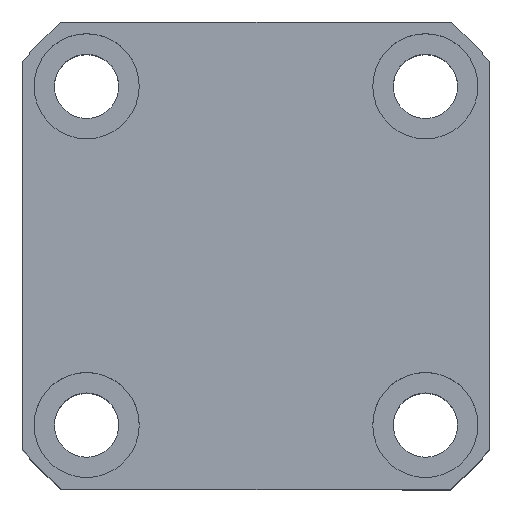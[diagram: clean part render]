
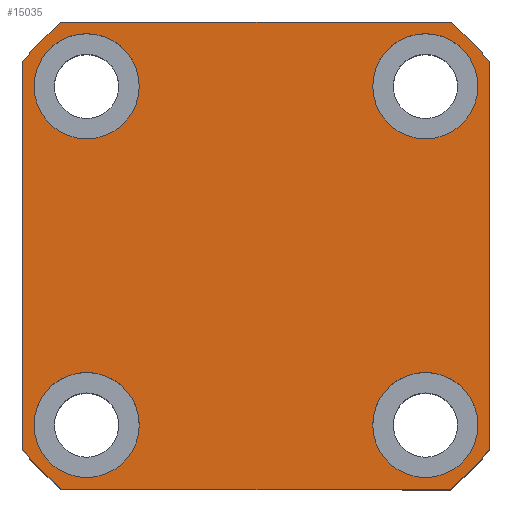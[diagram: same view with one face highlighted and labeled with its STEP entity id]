
A CAD part, top view. The second image highlights one B-rep face of the part: STEP entity #15035.
In plain terms, the highlighted planar face has unit normal (0, 0, 1).
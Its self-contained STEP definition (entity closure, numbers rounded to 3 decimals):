
#57 = EDGE_CURVE ( 'NONE', #1754, #4239, #4916, .T. ) ;
#171 = CIRCLE ( 'NONE', #12925, 52. ) ;
#187 = CIRCLE ( 'NONE', #13452, 9. ) ;
#350 = DIRECTION ( 'NONE',  ( 1., 0., 0. ) ) ;
#549 = EDGE_CURVE ( 'NONE', #1528, #14210, #15023, .T. ) ;
#766 = EDGE_CURVE ( 'NONE', #3929, #16914, #11044, .T. ) ;
#815 = FACE_BOUND ( 'NONE', #13070, .T. ) ;
#1059 = CARTESIAN_POINT ( 'NONE',  ( 29., 29., 37.5 ) ) ;
#1154 = ORIENTED_EDGE ( 'NONE', *, *, #9533, .F. ) ;
#1237 = DIRECTION ( 'NONE',  ( 1., 0., 0. ) ) ;
#1260 = CARTESIAN_POINT ( 'NONE',  ( 38., -29., 37.5 ) ) ;
#1262 = EDGE_CURVE ( 'NONE', #13022, #3929, #9930, .T. ) ;
#1265 = FACE_BOUND ( 'NONE', #1432, .T. ) ;
#1422 = VECTOR ( 'NONE', #2380, 1000. ) ;
#1432 = EDGE_LOOP ( 'NONE', ( #7398, #15890 ) ) ;
#1440 = CARTESIAN_POINT ( 'NONE',  ( 40., -33.226, 37.5 ) ) ;
#1528 = VERTEX_POINT ( 'NONE', #1260 ) ;
#1754 = VERTEX_POINT ( 'NONE', #1440 ) ;
#1807 = ORIENTED_EDGE ( 'NONE', *, *, #766, .T. ) ;
#2009 = CIRCLE ( 'NONE', #16118, 9. ) ;
#2079 = EDGE_CURVE ( 'NONE', #11434, #8548, #8201, .T. ) ;
#2185 = EDGE_CURVE ( 'NONE', #14210, #1528, #12819, .T. ) ;
#2206 = CIRCLE ( 'NONE', #8708, 9. ) ;
#2213 = EDGE_CURVE ( 'NONE', #16914, #8393, #11690, .T. ) ;
#2372 = EDGE_LOOP ( 'NONE', ( #4890, #2539 ) ) ;
#2380 = DIRECTION ( 'NONE',  ( 0., 1., 0. ) ) ;
#2539 = ORIENTED_EDGE ( 'NONE', *, *, #10391, .F. ) ;
#2752 = CARTESIAN_POINT ( 'NONE',  ( -40., -33.226, 37.5 ) ) ;
#3026 = EDGE_CURVE ( 'NONE', #6602, #11317, #10017, .T. ) ;
#3046 = FACE_OUTER_BOUND ( 'NONE', #10121, .T. ) ;
#3053 = PLANE ( 'NONE',  #12131 ) ;
#3156 = CARTESIAN_POINT ( 'NONE',  ( 20., 29., 37.5 ) ) ;
#3438 = CARTESIAN_POINT ( 'NONE',  ( -40., 33.226, 37.5 ) ) ;
#3487 = CIRCLE ( 'NONE', #16148, 52. ) ;
#3510 = EDGE_CURVE ( 'NONE', #8393, #1754, #3487, .T. ) ;
#3611 = EDGE_CURVE ( 'NONE', #4497, #13119, #187, .T. ) ;
#3819 = DIRECTION ( 'NONE',  ( 1., 0., 0. ) ) ;
#3839 = DIRECTION ( 'NONE',  ( 1., 0., 0. ) ) ;
#3929 = VERTEX_POINT ( 'NONE', #2752 ) ;
#4239 = VERTEX_POINT ( 'NONE', #14140 ) ;
#4298 = AXIS2_PLACEMENT_3D ( 'NONE', #12173, #17667, #13657 ) ;
#4497 = VERTEX_POINT ( 'NONE', #16981 ) ;
#4796 = CARTESIAN_POINT ( 'NONE',  ( -29., -29., 37.5 ) ) ;
#4890 = ORIENTED_EDGE ( 'NONE', *, *, #2079, .F. ) ;
#4916 = LINE ( 'NONE', #16629, #1422 ) ;
#5325 = CARTESIAN_POINT ( 'NONE',  ( -29., 29., 37.5 ) ) ;
#5450 = DIRECTION ( 'NONE',  ( 0., 0., 1. ) ) ;
#5802 = CARTESIAN_POINT ( 'NONE',  ( -40., 33.226, 37.5 ) ) ;
#5832 = DIRECTION ( 'NONE',  ( 0., 0., 1. ) ) ;
#5884 = CARTESIAN_POINT ( 'NONE',  ( -33.226, 40., 37.5 ) ) ;
#6233 = VECTOR ( 'NONE', #14582, 1000. ) ;
#6314 = FACE_BOUND ( 'NONE', #2372, .T. ) ;
#6415 = EDGE_CURVE ( 'NONE', #4239, #6602, #171, .T. ) ;
#6602 = VERTEX_POINT ( 'NONE', #15194 ) ;
#6940 = DIRECTION ( 'NONE',  ( 0., 0., 1. ) ) ;
#6966 = CARTESIAN_POINT ( 'NONE',  ( -38., 29., 37.5 ) ) ;
#7135 = ORIENTED_EDGE ( 'NONE', *, *, #57, .T. ) ;
#7156 = CARTESIAN_POINT ( 'NONE',  ( -38., -29., 37.5 ) ) ;
#7307 = DIRECTION ( 'NONE',  ( -1., 0., 0. ) ) ;
#7327 = DIRECTION ( 'NONE',  ( 0., 0., 1. ) ) ;
#7398 = ORIENTED_EDGE ( 'NONE', *, *, #3611, .F. ) ;
#7524 = CARTESIAN_POINT ( 'NONE',  ( -20., -29., 37.5 ) ) ;
#7540 = CARTESIAN_POINT ( 'NONE',  ( 20., -29., 37.5 ) ) ;
#7685 = EDGE_LOOP ( 'NONE', ( #1154, #16789 ) ) ;
#7976 = CARTESIAN_POINT ( 'NONE',  ( 0., 0., 37.5 ) ) ;
#8024 = AXIS2_PLACEMENT_3D ( 'NONE', #11498, #12765, #11256 ) ;
#8072 = CARTESIAN_POINT ( 'NONE',  ( -29., -29., 37.5 ) ) ;
#8201 = CIRCLE ( 'NONE', #10954, 9. ) ;
#8215 = DIRECTION ( 'NONE',  ( 1., 0., 0. ) ) ;
#8393 = VERTEX_POINT ( 'NONE', #16040 ) ;
#8467 = CARTESIAN_POINT ( 'NONE',  ( -29., 29., 37.5 ) ) ;
#8540 = CARTESIAN_POINT ( 'NONE',  ( 0., 0., 37.5 ) ) ;
#8548 = VERTEX_POINT ( 'NONE', #3156 ) ;
#8708 = AXIS2_PLACEMENT_3D ( 'NONE', #4796, #15884, #11655 ) ;
#8854 = AXIS2_PLACEMENT_3D ( 'NONE', #11149, #6940, #1237 ) ;
#9212 = EDGE_CURVE ( 'NONE', #13119, #4497, #14055, .T. ) ;
#9252 = ORIENTED_EDGE ( 'NONE', *, *, #549, .F. ) ;
#9533 = EDGE_CURVE ( 'NONE', #16398, #12651, #2206, .T. ) ;
#9828 = ORIENTED_EDGE ( 'NONE', *, *, #3510, .T. ) ;
#9919 = ORIENTED_EDGE ( 'NONE', *, *, #14661, .T. ) ;
#9930 = LINE ( 'NONE', #5802, #6233 ) ;
#9940 = VECTOR ( 'NONE', #12467, 1000. ) ;
#10017 = LINE ( 'NONE', #5884, #16408 ) ;
#10059 = CARTESIAN_POINT ( 'NONE',  ( 38., 29., 37.5 ) ) ;
#10121 = EDGE_LOOP ( 'NONE', ( #9919, #13717, #1807, #11729, #9828, #7135, #12316, #15933 ) ) ;
#10128 = AXIS2_PLACEMENT_3D ( 'NONE', #13373, #10699, #17754 ) ;
#10391 = EDGE_CURVE ( 'NONE', #8548, #11434, #13729, .T. ) ;
#10699 = DIRECTION ( 'NONE',  ( 0., 0., 1. ) ) ;
#10740 = CARTESIAN_POINT ( 'NONE',  ( -33.226, 40., 37.5 ) ) ;
#10837 = DIRECTION ( 'NONE',  ( 1., 0., 0. ) ) ;
#10895 = FACE_BOUND ( 'NONE', #7685, .T. ) ;
#10954 = AXIS2_PLACEMENT_3D ( 'NONE', #1059, #17951, #10837 ) ;
#10986 = DIRECTION ( 'NONE',  ( 0., 0., 1. ) ) ;
#11044 = CIRCLE ( 'NONE', #10128, 52. ) ;
#11149 = CARTESIAN_POINT ( 'NONE',  ( 29., -29., 37.5 ) ) ;
#11256 = DIRECTION ( 'NONE',  ( 1., 0., 0. ) ) ;
#11317 = VERTEX_POINT ( 'NONE', #10740 ) ;
#11325 = EDGE_CURVE ( 'NONE', #12651, #16398, #2009, .T. ) ;
#11434 = VERTEX_POINT ( 'NONE', #10059 ) ;
#11498 = CARTESIAN_POINT ( 'NONE',  ( 29., -29., 37.5 ) ) ;
#11541 = CARTESIAN_POINT ( 'NONE',  ( -33.226, -40., 37.5 ) ) ;
#11655 = DIRECTION ( 'NONE',  ( 1., 0., 0. ) ) ;
#11690 = LINE ( 'NONE', #16684, #9940 ) ;
#11729 = ORIENTED_EDGE ( 'NONE', *, *, #2213, .T. ) ;
#12092 = CARTESIAN_POINT ( 'NONE',  ( 0., 0., 37.5 ) ) ;
#12131 = AXIS2_PLACEMENT_3D ( 'NONE', #8540, #7327, #350 ) ;
#12173 = CARTESIAN_POINT ( 'NONE',  ( 0., 0., 37.5 ) ) ;
#12316 = ORIENTED_EDGE ( 'NONE', *, *, #6415, .T. ) ;
#12467 = DIRECTION ( 'NONE',  ( 1., 0., 0. ) ) ;
#12608 = DIRECTION ( 'NONE',  ( 1., 0., 0. ) ) ;
#12609 = AXIS2_PLACEMENT_3D ( 'NONE', #8467, #12734, #18079 ) ;
#12651 = VERTEX_POINT ( 'NONE', #7156 ) ;
#12734 = DIRECTION ( 'NONE',  ( 0., 0., 1. ) ) ;
#12765 = DIRECTION ( 'NONE',  ( 0., 0., 1. ) ) ;
#12819 = CIRCLE ( 'NONE', #8854, 9. ) ;
#12925 = AXIS2_PLACEMENT_3D ( 'NONE', #12092, #15110, #3839 ) ;
#13022 = VERTEX_POINT ( 'NONE', #3438 ) ;
#13070 = EDGE_LOOP ( 'NONE', ( #9252, #16287 ) ) ;
#13119 = VERTEX_POINT ( 'NONE', #6966 ) ;
#13373 = CARTESIAN_POINT ( 'NONE',  ( 0., 0., 37.5 ) ) ;
#13452 = AXIS2_PLACEMENT_3D ( 'NONE', #5325, #5450, #8215 ) ;
#13657 = DIRECTION ( 'NONE',  ( 1., 0., 0. ) ) ;
#13717 = ORIENTED_EDGE ( 'NONE', *, *, #1262, .T. ) ;
#13729 = CIRCLE ( 'NONE', #17175, 9. ) ;
#14008 = CARTESIAN_POINT ( 'NONE',  ( 29., 29., 37.5 ) ) ;
#14055 = CIRCLE ( 'NONE', #12609, 9. ) ;
#14140 = CARTESIAN_POINT ( 'NONE',  ( 40., 33.226, 37.5 ) ) ;
#14210 = VERTEX_POINT ( 'NONE', #7540 ) ;
#14582 = DIRECTION ( 'NONE',  ( 0., -1., 0. ) ) ;
#14661 = EDGE_CURVE ( 'NONE', #11317, #13022, #17273, .T. ) ;
#15023 = CIRCLE ( 'NONE', #8024, 9. ) ;
#15035 = ADVANCED_FACE ( 'NONE', ( #815, #10895, #1265, #6314, #3046 ), #3053, .T. ) ;
#15110 = DIRECTION ( 'NONE',  ( 0., 0., 1. ) ) ;
#15194 = CARTESIAN_POINT ( 'NONE',  ( 33.226, 40., 37.5 ) ) ;
#15884 = DIRECTION ( 'NONE',  ( 0., 0., 1. ) ) ;
#15890 = ORIENTED_EDGE ( 'NONE', *, *, #9212, .F. ) ;
#15933 = ORIENTED_EDGE ( 'NONE', *, *, #3026, .T. ) ;
#16040 = CARTESIAN_POINT ( 'NONE',  ( 33.226, -40., 37.5 ) ) ;
#16118 = AXIS2_PLACEMENT_3D ( 'NONE', #8072, #10986, #18030 ) ;
#16148 = AXIS2_PLACEMENT_3D ( 'NONE', #7976, #17760, #3819 ) ;
#16287 = ORIENTED_EDGE ( 'NONE', *, *, #2185, .F. ) ;
#16398 = VERTEX_POINT ( 'NONE', #7524 ) ;
#16408 = VECTOR ( 'NONE', #7307, 1000. ) ;
#16629 = CARTESIAN_POINT ( 'NONE',  ( 40., 33.226, 37.5 ) ) ;
#16684 = CARTESIAN_POINT ( 'NONE',  ( -33.226, -40., 37.5 ) ) ;
#16789 = ORIENTED_EDGE ( 'NONE', *, *, #11325, .F. ) ;
#16914 = VERTEX_POINT ( 'NONE', #11541 ) ;
#16981 = CARTESIAN_POINT ( 'NONE',  ( -20., 29., 37.5 ) ) ;
#17175 = AXIS2_PLACEMENT_3D ( 'NONE', #14008, #5832, #12608 ) ;
#17273 = CIRCLE ( 'NONE', #4298, 52. ) ;
#17667 = DIRECTION ( 'NONE',  ( 0., 0., 1. ) ) ;
#17754 = DIRECTION ( 'NONE',  ( 1., 0., 0. ) ) ;
#17760 = DIRECTION ( 'NONE',  ( 0., 0., 1. ) ) ;
#17951 = DIRECTION ( 'NONE',  ( 0., 0., 1. ) ) ;
#18030 = DIRECTION ( 'NONE',  ( 1., 0., 0. ) ) ;
#18079 = DIRECTION ( 'NONE',  ( 1., 0., 0. ) ) ;
